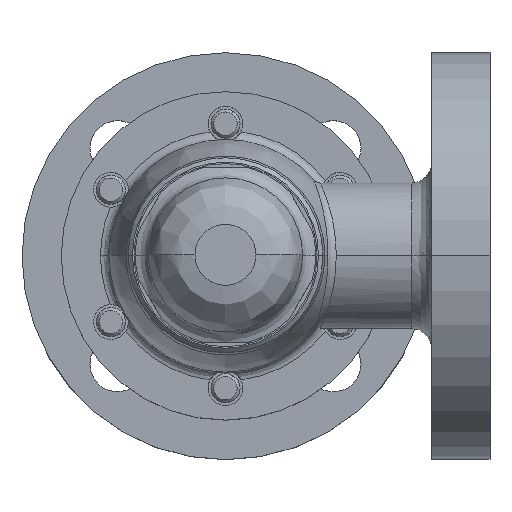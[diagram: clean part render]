
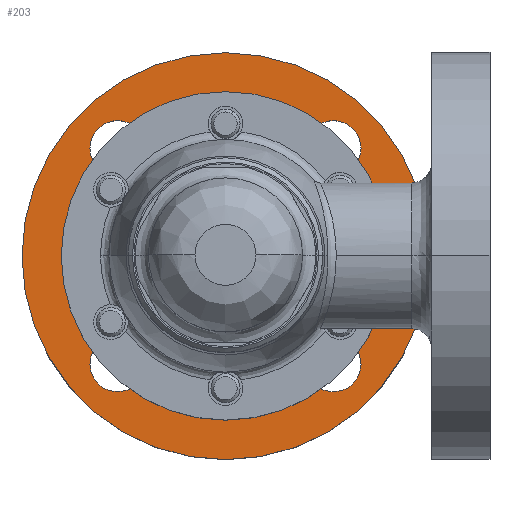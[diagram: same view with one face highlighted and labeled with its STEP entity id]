
A CAD part, top view. The second image highlights one B-rep face of the part: STEP entity #203.
In plain terms, the highlighted planar face has unit normal (0, 0, 1).
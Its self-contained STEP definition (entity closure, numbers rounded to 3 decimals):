
#203=ADVANCED_FACE('',(#439,#440,#441,#442,#443,#444),#438,.F.);
#438=PLANE('',#2003);
#439=FACE_OUTER_BOUND('',#2004,.T.);
#440=FACE_BOUND('',#2005,.T.);
#441=FACE_BOUND('',#2006,.T.);
#442=FACE_BOUND('',#2007,.T.);
#443=FACE_BOUND('',#2008,.T.);
#444=FACE_BOUND('',#2009,.T.);
#2000=CARTESIAN_POINT('',(150.,-131.244,-95.));
#2001=DIRECTION('',(0.,0.,-1.));
#2002=DIRECTION('',(-1.,0.,0.));
#2003=AXIS2_PLACEMENT_3D('',#2000,#2001,#2002);
#2004=EDGE_LOOP('',(#3292,#3293));
#2005=EDGE_LOOP('',(#3294,#3295));
#2006=EDGE_LOOP('',(#3296,#3297));
#2007=EDGE_LOOP('',(#3298,#3299));
#2008=EDGE_LOOP('',(#3300,#3301));
#2009=EDGE_LOOP('',(#3302,#3303));
#3292=ORIENTED_EDGE('',*,*,#4006,.F.);
#3293=ORIENTED_EDGE('',*,*,#4007,.F.);
#3294=ORIENTED_EDGE('',*,*,#4008,.T.);
#3295=ORIENTED_EDGE('',*,*,#4009,.T.);
#3296=ORIENTED_EDGE('',*,*,#4010,.T.);
#3297=ORIENTED_EDGE('',*,*,#4011,.T.);
#3298=ORIENTED_EDGE('',*,*,#4012,.T.);
#3299=ORIENTED_EDGE('',*,*,#4013,.T.);
#3300=ORIENTED_EDGE('',*,*,#4014,.T.);
#3301=ORIENTED_EDGE('',*,*,#4015,.T.);
#3302=ORIENTED_EDGE('',*,*,#4016,.T.);
#3303=ORIENTED_EDGE('',*,*,#4017,.T.);
#4006=EDGE_CURVE('',#4687,#4688,#4689,.T.);
#4007=EDGE_CURVE('',#4688,#4687,#4695,.T.);
#4008=EDGE_CURVE('',#4701,#4702,#4703,.T.);
#4009=EDGE_CURVE('',#4702,#4701,#4709,.T.);
#4010=EDGE_CURVE('',#4715,#4716,#4717,.T.);
#4011=EDGE_CURVE('',#4716,#4715,#4723,.T.);
#4012=EDGE_CURVE('',#4729,#4730,#4731,.T.);
#4013=EDGE_CURVE('',#4730,#4729,#4737,.T.);
#4014=EDGE_CURVE('',#4743,#4744,#4745,.T.);
#4015=EDGE_CURVE('',#4744,#4743,#4751,.T.);
#4016=EDGE_CURVE('',#4757,#4758,#4759,.T.);
#4017=EDGE_CURVE('',#4758,#4757,#4765,.T.);
#4687=VERTEX_POINT('',#7063);
#4688=VERTEX_POINT('',#7064);
#4689=CIRCLE('',#7068,70.);
#4695=CIRCLE('',#7072,70.);
#4701=VERTEX_POINT('',#7073);
#4702=VERTEX_POINT('',#7074);
#4703=CIRCLE('',#7078,9.5);
#4709=CIRCLE('',#7082,9.5);
#4715=VERTEX_POINT('',#7083);
#4716=VERTEX_POINT('',#7084);
#4717=CIRCLE('',#7088,9.5);
#4723=CIRCLE('',#7092,9.5);
#4729=VERTEX_POINT('',#7093);
#4730=VERTEX_POINT('',#7094);
#4731=CIRCLE('',#7098,9.5);
#4737=CIRCLE('',#7102,9.5);
#4743=VERTEX_POINT('',#7103);
#4744=VERTEX_POINT('',#7104);
#4745=CIRCLE('',#7108,9.5);
#4751=CIRCLE('',#7112,9.5);
#4757=VERTEX_POINT('',#7113);
#4758=VERTEX_POINT('',#7114);
#4759=CIRCLE('',#7118,30.);
#4765=CIRCLE('',#7122,30.);
#7063=CARTESIAN_POINT('',(70.,0.,-95.));
#7064=CARTESIAN_POINT('',(-70.,0.,-95.));
#7065=CARTESIAN_POINT('',(0.,0.,-95.));
#7066=DIRECTION('',(0.,0.,-1.));
#7067=DIRECTION('',(-1.,0.,0.));
#7068=AXIS2_PLACEMENT_3D('',#7065,#7066,#7067);
#7069=CARTESIAN_POINT('',(0.,0.,-95.));
#7070=DIRECTION('',(0.,0.,-1.));
#7071=DIRECTION('',(-1.,0.,0.));
#7072=AXIS2_PLACEMENT_3D('',#7069,#7070,#7071);
#7073=CARTESIAN_POINT('',(46.623,-37.123,-95.));
#7074=CARTESIAN_POINT('',(27.623,-37.123,-95.));
#7075=CARTESIAN_POINT('',(37.123,-37.123,-95.));
#7076=DIRECTION('',(0.,0.,-1.));
#7077=DIRECTION('',(1.,0.,0.));
#7078=AXIS2_PLACEMENT_3D('',#7075,#7076,#7077);
#7079=CARTESIAN_POINT('',(37.123,-37.123,-95.));
#7080=DIRECTION('',(0.,0.,-1.));
#7081=DIRECTION('',(1.,0.,0.));
#7082=AXIS2_PLACEMENT_3D('',#7079,#7080,#7081);
#7083=CARTESIAN_POINT('',(46.623,37.123,-95.));
#7084=CARTESIAN_POINT('',(27.623,37.123,-95.));
#7085=CARTESIAN_POINT('',(37.123,37.123,-95.));
#7086=DIRECTION('',(0.,0.,-1.));
#7087=DIRECTION('',(1.,0.,0.));
#7088=AXIS2_PLACEMENT_3D('',#7085,#7086,#7087);
#7089=CARTESIAN_POINT('',(37.123,37.123,-95.));
#7090=DIRECTION('',(0.,0.,-1.));
#7091=DIRECTION('',(1.,0.,0.));
#7092=AXIS2_PLACEMENT_3D('',#7089,#7090,#7091);
#7093=CARTESIAN_POINT('',(-27.623,37.123,-95.));
#7094=CARTESIAN_POINT('',(-46.623,37.123,-95.));
#7095=CARTESIAN_POINT('',(-37.123,37.123,-95.));
#7096=DIRECTION('',(0.,0.,-1.));
#7097=DIRECTION('',(1.,0.,0.));
#7098=AXIS2_PLACEMENT_3D('',#7095,#7096,#7097);
#7099=CARTESIAN_POINT('',(-37.123,37.123,-95.));
#7100=DIRECTION('',(0.,0.,-1.));
#7101=DIRECTION('',(1.,0.,0.));
#7102=AXIS2_PLACEMENT_3D('',#7099,#7100,#7101);
#7103=CARTESIAN_POINT('',(-27.623,-37.123,-95.));
#7104=CARTESIAN_POINT('',(-46.623,-37.123,-95.));
#7105=CARTESIAN_POINT('',(-37.123,-37.123,-95.));
#7106=DIRECTION('',(0.,0.,-1.));
#7107=DIRECTION('',(1.,0.,0.));
#7108=AXIS2_PLACEMENT_3D('',#7105,#7106,#7107);
#7109=CARTESIAN_POINT('',(-37.123,-37.123,-95.));
#7110=DIRECTION('',(0.,0.,-1.));
#7111=DIRECTION('',(1.,0.,0.));
#7112=AXIS2_PLACEMENT_3D('',#7109,#7110,#7111);
#7113=CARTESIAN_POINT('',(-30.,0.,-95.));
#7114=CARTESIAN_POINT('',(30.,0.,-95.));
#7115=CARTESIAN_POINT('',(0.,0.,-95.));
#7116=DIRECTION('',(0.,0.,-1.));
#7117=DIRECTION('',(-1.,0.,0.));
#7118=AXIS2_PLACEMENT_3D('',#7115,#7116,#7117);
#7119=CARTESIAN_POINT('',(0.,0.,-95.));
#7120=DIRECTION('',(0.,0.,-1.));
#7121=DIRECTION('',(-1.,0.,0.));
#7122=AXIS2_PLACEMENT_3D('',#7119,#7120,#7121);
